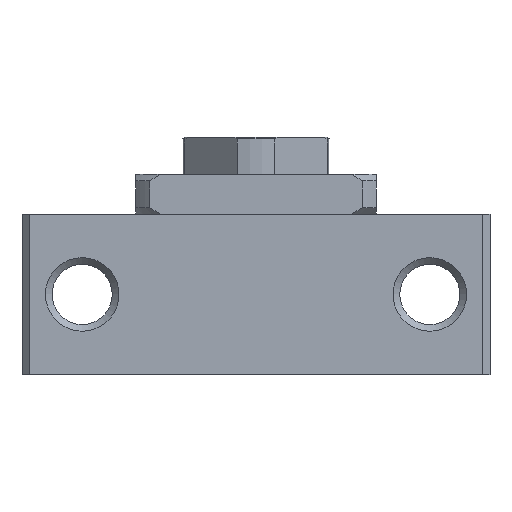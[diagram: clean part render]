
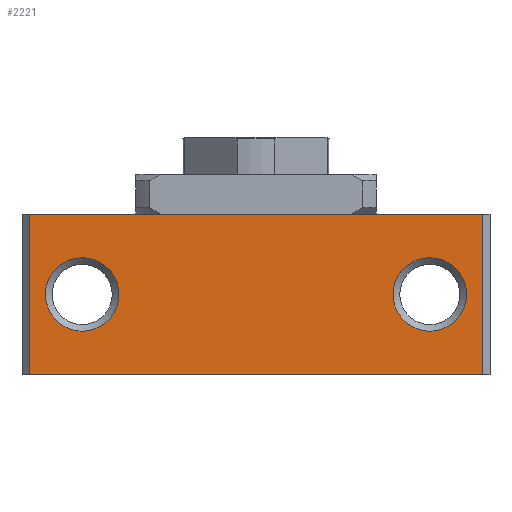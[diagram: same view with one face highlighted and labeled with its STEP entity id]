
A CAD part, front view. The second image highlights one B-rep face of the part: STEP entity #2221.
In plain terms, the highlighted planar face has unit normal (0, -1, 0).
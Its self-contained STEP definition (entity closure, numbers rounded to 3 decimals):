
#132=LINE('',#3353,#304);
#162=LINE('',#3432,#334);
#163=LINE('',#3438,#335);
#164=LINE('',#3440,#336);
#304=VECTOR('',#2687,1000.);
#334=VECTOR('',#2745,1000.);
#335=VECTOR('',#2752,1000.);
#336=VECTOR('',#2753,1000.);
#463=PLANE('',#2419);
#619=ORIENTED_EDGE('',*,*,#1223,.F.);
#620=ORIENTED_EDGE('',*,*,#1224,.F.);
#621=ORIENTED_EDGE('',*,*,#1225,.F.);
#622=ORIENTED_EDGE('',*,*,#1222,.F.);
#623=ORIENTED_EDGE('',*,*,#1185,.T.);
#624=ORIENTED_EDGE('',*,*,#1226,.T.);
#1185=EDGE_CURVE('',#1488,#1487,#132,.T.);
#1222=EDGE_CURVE('',#1488,#1522,#162,.T.);
#1223=EDGE_CURVE('',#1523,#1523,#1693,.T.);
#1224=EDGE_CURVE('',#1524,#1524,#1694,.T.);
#1225=EDGE_CURVE('',#1522,#1525,#163,.T.);
#1226=EDGE_CURVE('',#1487,#1525,#164,.T.);
#1487=VERTEX_POINT('',#3352);
#1488=VERTEX_POINT('',#3354);
#1522=VERTEX_POINT('',#3431);
#1523=VERTEX_POINT('',#3435);
#1524=VERTEX_POINT('',#3437);
#1525=VERTEX_POINT('',#3439);
#1693=CIRCLE('',#2420,5.5);
#1694=CIRCLE('',#2421,5.5);
#1791=EDGE_LOOP('',(#619));
#1792=EDGE_LOOP('',(#620));
#1793=EDGE_LOOP('',(#621,#622,#623,#624));
#1997=FACE_BOUND('',#1791,.T.);
#1998=FACE_BOUND('',#1792,.T.);
#1999=FACE_BOUND('',#1793,.T.);
#2221=ADVANCED_FACE('',(#1997,#1998,#1999),#463,.T.);
#2419=AXIS2_PLACEMENT_3D('',#3433,#2746,#2747);
#2420=AXIS2_PLACEMENT_3D('',#3434,#2748,#2749);
#2421=AXIS2_PLACEMENT_3D('',#3436,#2750,#2751);
#2687=DIRECTION('',(1.,0.,0.));
#2745=DIRECTION('',(0.,0.,1.));
#2746=DIRECTION('',(0.,-1.,0.));
#2747=DIRECTION('',(0.,0.,-1.));
#2748=DIRECTION('',(0.,-1.,0.));
#2749=DIRECTION('',(0.,0.,-1.));
#2750=DIRECTION('',(0.,-1.,0.));
#2751=DIRECTION('',(0.,0.,-1.));
#2752=DIRECTION('',(1.,0.,0.));
#2753=DIRECTION('',(0.,0.,1.));
#3352=CARTESIAN_POINT('',(33.92,-20.,-24.));
#3353=CARTESIAN_POINT('',(-33.92,-20.,-24.));
#3354=CARTESIAN_POINT('',(-33.92,-20.,-24.));
#3431=CARTESIAN_POINT('',(-33.92,-20.,0.));
#3432=CARTESIAN_POINT('',(-33.92,-20.,-24.));
#3433=CARTESIAN_POINT('',(-33.92,-20.,-24.));
#3434=CARTESIAN_POINT('',(26.,-20.,-12.));
#3435=CARTESIAN_POINT('',(26.,-20.,-17.5));
#3436=CARTESIAN_POINT('',(-26.,-20.,-12.));
#3437=CARTESIAN_POINT('',(-26.,-20.,-17.5));
#3438=CARTESIAN_POINT('',(-33.92,-20.,0.));
#3439=CARTESIAN_POINT('',(33.92,-20.,0.));
#3440=CARTESIAN_POINT('',(33.92,-20.,-24.));
